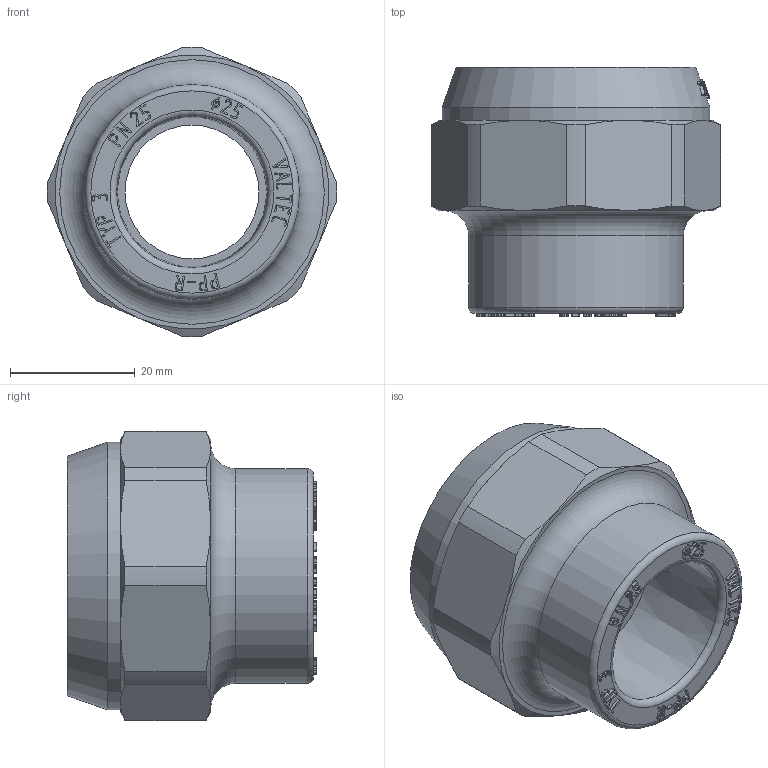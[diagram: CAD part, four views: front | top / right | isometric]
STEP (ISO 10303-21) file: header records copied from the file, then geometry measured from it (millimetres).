
FILE_DESCRIPTION(('STEP AP203'), '1');
FILE_NAME('ÂÐ.753153.011 - VTp.702.0.02505', '', ('UNSPECIFIED'), ('UNSPECIFIED'), 'C3D Converter', 'C3D Toolkit', '');
FILE_SCHEMA(('CONFIG_CONTROL_DESIGN'));
Length unit declared in the file: millimetre
Products named in the file (4): ВР.753153.011; ВР.302639.015.000; ВР.713661.002
Assembly tree (3 placements, depth 3):
  ВР.753153.011
    ВР.302639.015.000
      ВР.713661.002
      (unnamed)
Bounding box: 46.49 x 40 x 46.49 mm (x, y, z)
Volume: 33464.6 mm3; surface area: 18481.1 mm2
Topology: 3 solids, 3 shells, 863 faces, 2384 edges, 1582 vertices
Faces by surface type: extrusion 443, plane 351, cylinder 32, cone 29, torus 8
Full cylindrical faces by diameter (mm): 21.5 x1, 24.118 x1, 27 x2, 29.5 x8, 33.5 x10, 34.5 x1, 43 x1
Entity records: 30949 total; most frequent: CARTESIAN_POINT 10787, ORIENTED_EDGE 4658, DIRECTION 2776, EDGE_CURVE 2329, VECTOR 1596, VERTEX_POINT 1569, B_SPLINE_CURVE_WITH_KNOTS 1452, LINE 1153
